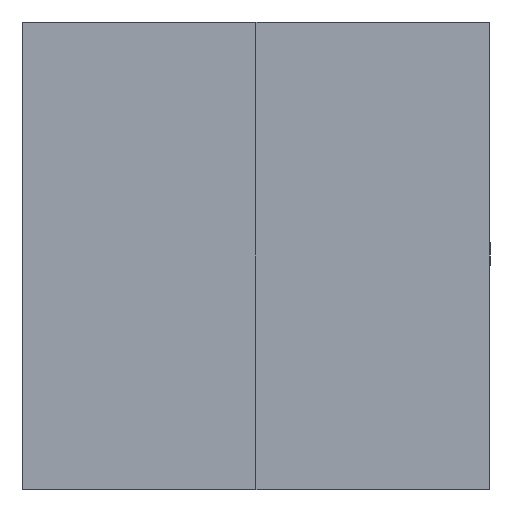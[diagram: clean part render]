
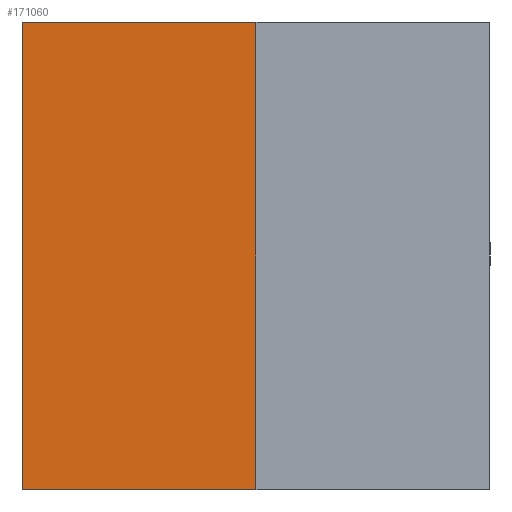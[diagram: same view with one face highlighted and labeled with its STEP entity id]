
A CAD part, front view. The second image highlights one B-rep face of the part: STEP entity #171060.
In plain terms, the highlighted free-form (B-spline) face has degree [1, 1] with [2, 2] control points.
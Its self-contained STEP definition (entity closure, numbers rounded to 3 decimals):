
#30 = CARTESIAN_POINT ('', (10., 8.35, 0.));
#40 = VERTEX_POINT ('', #30);
#100 = CARTESIAN_POINT ('', (0., 8.35, 0.));
#110 = VERTEX_POINT ('', #100);
#120 = CARTESIAN_POINT ('', (0., 8.35, 0.));
#130 = CARTESIAN_POINT ('', (10., 8.35, 0.));
#140 = B_SPLINE_CURVE_WITH_KNOTS ('', 1, (#120, #130), .UNSPECIFIED., .F., .U., (2, 2), (0., 10.), .UNSPECIFIED.);
#150 = EDGE_CURVE ('', #110, #40, #140, .T.);
#1770 = CARTESIAN_POINT ('', (0., 8.35, 20.));
#1780 = VERTEX_POINT ('', #1770);
#1840 = CARTESIAN_POINT ('', (10., 8.35, 20.));
#1850 = VERTEX_POINT ('', #1840);
#1860 = CARTESIAN_POINT ('', (0., 8.35, 20.));
#1870 = CARTESIAN_POINT ('', (10., 8.35, 20.));
#1880 = B_SPLINE_CURVE_WITH_KNOTS ('', 1, (#1860, #1870), .UNSPECIFIED., .F., .U., (2, 2), (0., 10.), .UNSPECIFIED.);
#1890 = EDGE_CURVE ('', #1780, #1850, #1880, .T.);
#170670 = CARTESIAN_POINT ('', (0., 8.35, 20.));
#170680 = CARTESIAN_POINT ('', (0., 8.35, 0.));
#170690 = B_SPLINE_CURVE_WITH_KNOTS ('', 1, (#170670, #170680), .UNSPECIFIED., .F., .U., (2, 2), (0., 1.), .UNSPECIFIED.);
#170700 = EDGE_CURVE ('', #1780, #110, #170690, .T.);
#170840 = ORIENTED_EDGE ('', *, *, #150, .T.);
#170850 = CARTESIAN_POINT ('', (10., 8.35, 10.));
#170860 = VERTEX_POINT ('', #170850);
#170870 = CARTESIAN_POINT ('', (10., 8.35, 10.));
#170880 = CARTESIAN_POINT ('', (10., 8.35, 0.));
#170890 = B_SPLINE_CURVE_WITH_KNOTS ('', 1, (#170870, #170880), .UNSPECIFIED., .F., .U., (2, 2), (0., 1.), .UNSPECIFIED.);
#170900 = EDGE_CURVE ('', #170860, #40, #170890, .T.);
#170910 = ORIENTED_EDGE ('', *, *, #170900, .F.);
#170920 = CARTESIAN_POINT ('', (10., 8.35, 10.));
#170930 = CARTESIAN_POINT ('', (10., 8.35, 20.));
#170940 = B_SPLINE_CURVE_WITH_KNOTS ('', 1, (#170920, #170930), .UNSPECIFIED., .F., .U., (2, 2), (0., 1.), .UNSPECIFIED.);
#170950 = EDGE_CURVE ('', #170860, #1850, #170940, .T.);
#170960 = ORIENTED_EDGE ('', *, *, #170950, .T.);
#170970 = ORIENTED_EDGE ('', *, *, #1890, .F.);
#170980 = ORIENTED_EDGE ('', *, *, #170700, .T.);
#170990 = EDGE_LOOP ('', (#170840, #170910, #170960, #170970, #170980));
#171000 = FACE_OUTER_BOUND ('', #170990, .T.);
#171010 = CARTESIAN_POINT ('', (0., 8.35, 20.));
#171020 = CARTESIAN_POINT ('', (20., 8.35, 20.));
#171030 = CARTESIAN_POINT ('', (0., 8.35, 0.));
#171040 = CARTESIAN_POINT ('', (20., 8.35, 0.));
#171050 = B_SPLINE_SURFACE_WITH_KNOTS ('', 1, 1, ((#171010, #171020), (#171030, #171040)), .UNSPECIFIED., .F., .F., .U., (2, 2), (2, 2), (0., 1.), (0., 20.), .UNSPECIFIED.);
#171060 = ADVANCED_FACE ('', (#171000), #171050, .T.);
